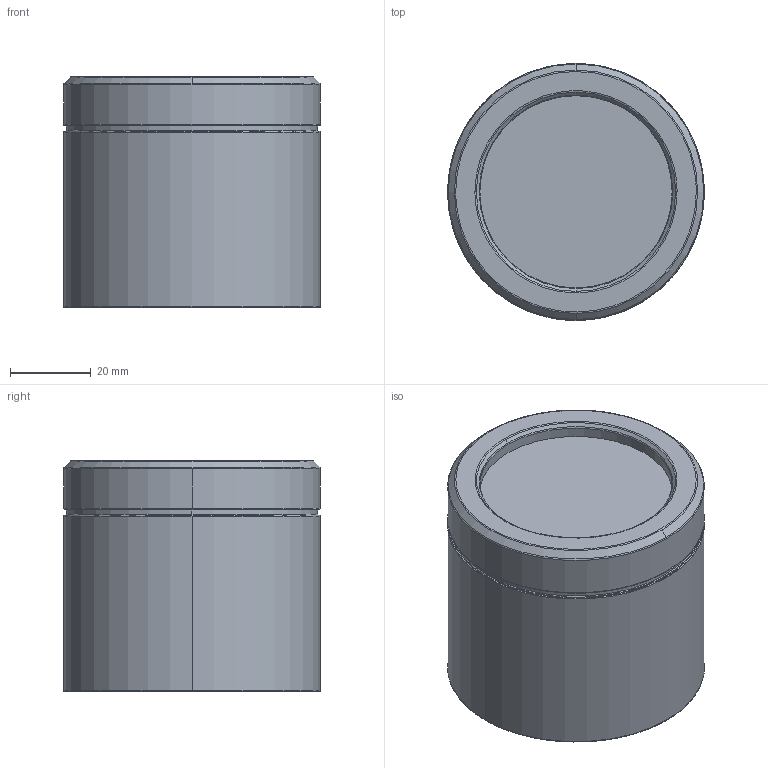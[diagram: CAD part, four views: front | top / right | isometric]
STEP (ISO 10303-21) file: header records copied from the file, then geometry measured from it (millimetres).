
FILE_DESCRIPTION (( 'STEP AP214' ), '1' );
FILE_NAME ('HL-57-VC.STEP', '2021-03-08T02:46:12', ( '' ), ( '' ), 'SwSTEP 2.0', 'SolidWorks 2018', '' );
FILE_SCHEMA (( 'AUTOMOTIVE_DESIGN' ));
Length unit declared in the file: millimetre
Products named in the file (1): HL-57-VC
Bounding box: 63.4 x 63.4 x 57 mm (x, y, z)
Volume: 36096.2 mm3; surface area: 27457.3 mm2
Topology: 1 solids, 1 shells, 64 faces, 150 edges, 90 vertices
Faces by surface type: cylinder 22, bspline 18, cone 16, plane 8
Entity records: 3432 total; most frequent: CARTESIAN_POINT 1283, DIRECTION 314, ORIENTED_EDGE 292, EDGE_CURVE 146, AXIS2_PLACEMENT_3D 137, CIRCLE 90, VERTEX_POINT 90, EDGE_LOOP 70
